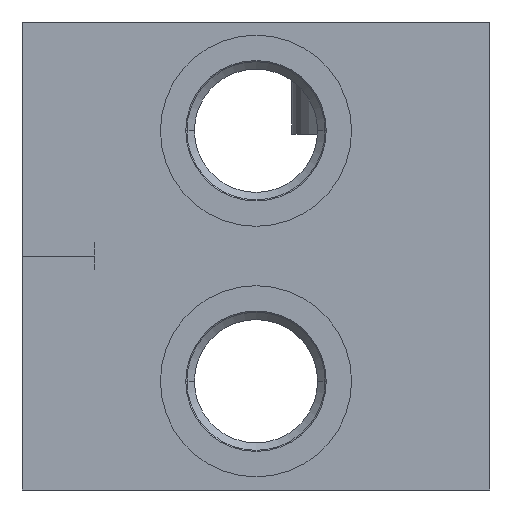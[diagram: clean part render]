
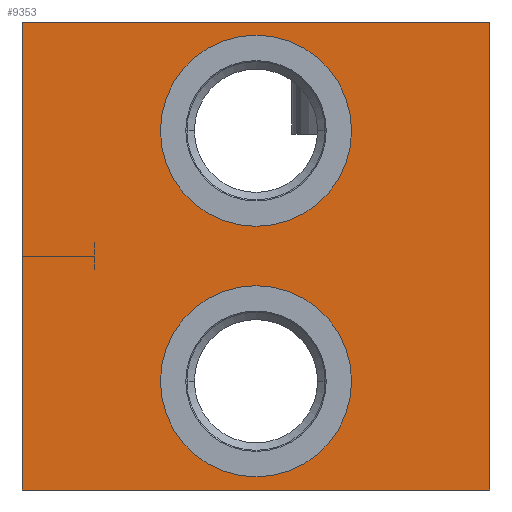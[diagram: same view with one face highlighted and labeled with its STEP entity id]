
A CAD part, left-side view. The second image highlights one B-rep face of the part: STEP entity #9353.
In plain terms, the highlighted planar face has unit normal (-1, 0, 0).
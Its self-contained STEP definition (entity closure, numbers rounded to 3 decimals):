
#30=DIRECTION('',(0.,-1.,0.));
#31=VECTOR('',#30,71.);
#32=CARTESIAN_POINT('',(0.,71.,0.));
#33=LINE('',#32,#31);
#307=DIRECTION('',(0.,0.,-1.));
#308=VECTOR('',#307,71.);
#309=CARTESIAN_POINT('',(0.,0.,0.));
#310=LINE('',#309,#308);
#2028=DIRECTION('',(0.,0.,-1.));
#2029=VECTOR('',#2028,71.);
#2030=CARTESIAN_POINT('',(0.,71.,0.));
#2031=LINE('',#2030,#2029);
#2035=CARTESIAN_POINT('',(0.,35.5,-54.5));
#2036=DIRECTION('',(1.,0.,0.));
#2037=DIRECTION('',(0.,-1.,0.));
#2038=AXIS2_PLACEMENT_3D('',#2035,#2036,#2037);
#2043=CARTESIAN_POINT('',(0.,35.5,-54.5));
#2044=DIRECTION('',(1.,0.,0.));
#2045=DIRECTION('',(0.,1.,0.));
#2046=AXIS2_PLACEMENT_3D('',#2043,#2044,#2045);
#2051=CARTESIAN_POINT('',(0.,35.5,-16.5));
#2052=DIRECTION('',(1.,0.,0.));
#2053=DIRECTION('',(0.,-1.,0.));
#2054=AXIS2_PLACEMENT_3D('',#2051,#2052,#2053);
#2059=CARTESIAN_POINT('',(0.,35.5,-16.5));
#2060=DIRECTION('',(1.,0.,0.));
#2061=DIRECTION('',(0.,1.,0.));
#2062=AXIS2_PLACEMENT_3D('',#2059,#2060,#2061);
#2088=DIRECTION('',(0.,-1.,0.));
#2089=VECTOR('',#2088,71.);
#2090=CARTESIAN_POINT('',(0.,71.,-71.));
#2091=LINE('',#2090,#2089);
#7882=CARTESIAN_POINT('',(0.,0.,0.));
#7884=VERTEX_POINT('',#7882);
#7888=CARTESIAN_POINT('',(0.,71.,0.));
#7889=VERTEX_POINT('',#7888);
#7890=CARTESIAN_POINT('',(0.,0.,-71.));
#7892=VERTEX_POINT('',#7890);
#7896=CARTESIAN_POINT('',(0.,71.,-71.));
#7897=VERTEX_POINT('',#7896);
#7926=CARTESIAN_POINT('',(0.,21.,-54.5));
#7927=CARTESIAN_POINT('',(0.,50.,-54.5));
#7928=VERTEX_POINT('',#7926);
#7929=VERTEX_POINT('',#7927);
#7942=CARTESIAN_POINT('',(0.,21.,-16.5));
#7943=CARTESIAN_POINT('',(0.,50.,-16.5));
#7944=VERTEX_POINT('',#7942);
#7945=VERTEX_POINT('',#7943);
#9329=CARTESIAN_POINT('',(0.,71.,0.));
#9330=DIRECTION('',(-1.,0.,0.));
#9331=DIRECTION('',(0.,-1.,0.));
#9332=AXIS2_PLACEMENT_3D('',#9329,#9330,#9331);
#9333=PLANE('',#9332);
#9334=ORIENTED_EDGE('',*,*,#8799,.T.);
#9335=ORIENTED_EDGE('',*,*,#8921,.T.);
#9337=ORIENTED_EDGE('',*,*,#9336,.F.);
#9338=ORIENTED_EDGE('',*,*,#9008,.F.);
#9339=EDGE_LOOP('',(#9334,#9335,#9337,#9338));
#9340=FACE_OUTER_BOUND('',#9339,.F.);
#9342=ORIENTED_EDGE('',*,*,#9341,.F.);
#9344=ORIENTED_EDGE('',*,*,#9343,.F.);
#9345=EDGE_LOOP('',(#9342,#9344));
#9346=FACE_BOUND('',#9345,.F.);
#9348=ORIENTED_EDGE('',*,*,#9347,.F.);
#9350=ORIENTED_EDGE('',*,*,#9349,.F.);
#9351=EDGE_LOOP('',(#9348,#9350));
#9352=FACE_BOUND('',#9351,.F.);
#2039=CIRCLE('',#2038,14.5);
#2047=CIRCLE('',#2046,14.5);
#2055=CIRCLE('',#2054,14.5);
#2063=CIRCLE('',#2062,14.5);
#8799=EDGE_CURVE('',#7889,#7884,#33,.T.);
#8921=EDGE_CURVE('',#7884,#7892,#310,.T.);
#9008=EDGE_CURVE('',#7889,#7897,#2031,.T.);
#9336=EDGE_CURVE('',#7897,#7892,#2091,.T.);
#9341=EDGE_CURVE('',#7928,#7929,#2039,.T.);
#9343=EDGE_CURVE('',#7929,#7928,#2047,.T.);
#9347=EDGE_CURVE('',#7944,#7945,#2055,.T.);
#9349=EDGE_CURVE('',#7945,#7944,#2063,.T.);
#9353=ADVANCED_FACE('',(#9340,#9346,#9352),#9333,.T.);
